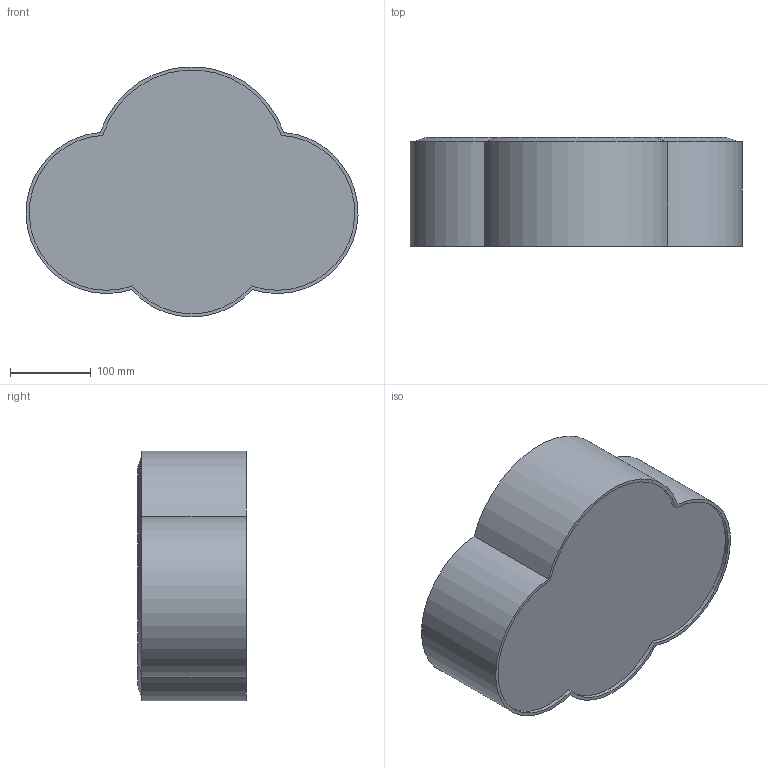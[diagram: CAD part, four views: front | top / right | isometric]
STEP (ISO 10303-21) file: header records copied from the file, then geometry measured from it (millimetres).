
FILE_DESCRIPTION(/* description */ (''),/* implementation_level */ '2;1');
FILE_NAME(/* name */ 'C:/Users/kubaw/OneDrive/Pulpit/3D/JAKUB_WIECZORKOWSKI_MAJ_PACZKA/OK/4228_CLOUD v3.step',/* time_stamp */ '2021-06-16T16:04:56+02:00',/* author */ (''),/* organization */ (''),/* preprocessor_version */ 'ST-DEVELOPER v18.1',/* originating_system */ 'Autodesk Translation Framework v10.9.0.1377',/* authorisation */ '');
FILE_SCHEMA (('AUTOMOTIVE_DESIGN { 1 0 10303 214 3 1 1 }'));
Length unit declared in the file: millimetre
Products named in the file (2): 4228_CLOUD; MOCOWANIE CLOUD_PLAFON
Assembly tree (1 placements, depth 2):
  4228_CLOUD
    MOCOWANIE CLOUD_PLAFON
Bounding box: 411.24 x 135 x 309.59 mm (x, y, z)
Volume: 1660660.3 mm3; surface area: 743831.3 mm2
Topology: 33 solids, 33 shells, 338 faces, 785 edges, 512 vertices
Faces by surface type: plane 266, cylinder 60, torus 8, bspline 4
Full cylindrical faces by diameter (mm): 14.819 x8, 18 x1, 20 x1, 20.058 x4, 28.544 x4, 30 x7, 40 x4, 45 x4, 96 x1, 100 x1
Entity records: 9824 total; most frequent: CARTESIAN_POINT 1851, DIRECTION 1615, ORIENTED_EDGE 1570, EDGE_CURVE 785, LINE 631, VECTOR 631, VERTEX_POINT 512, AXIS2_PLACEMENT_3D 492
